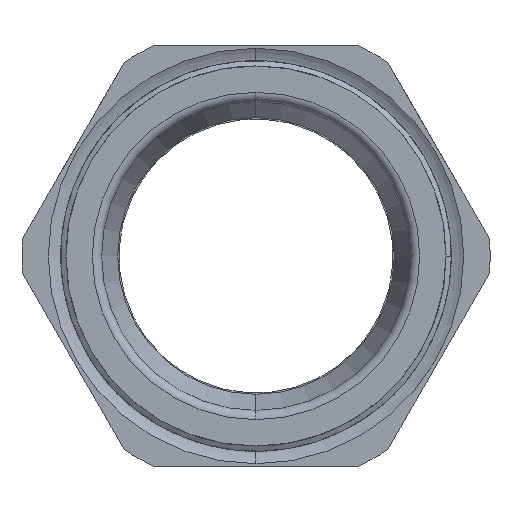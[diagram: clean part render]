
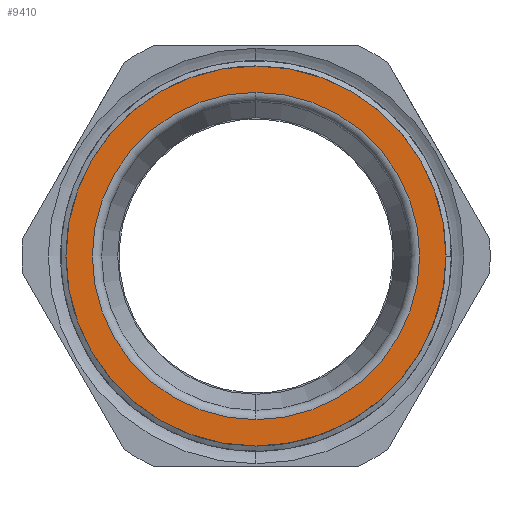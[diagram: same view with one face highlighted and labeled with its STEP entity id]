
A CAD part, front view. The second image highlights one B-rep face of the part: STEP entity #9410.
In plain terms, the highlighted planar face has unit normal (0, -1, 0).
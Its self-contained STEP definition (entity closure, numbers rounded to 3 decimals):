
#652 = PLANE ( 'NONE',  #11264 ) ;
#1283 = DIRECTION ( 'NONE',  ( 0., 0., -1. ) ) ;
#1544 = EDGE_LOOP ( 'NONE', ( #8091, #30781 ) ) ;
#2298 = DIRECTION ( 'NONE',  ( 0., -1., 0. ) ) ;
#2754 = EDGE_CURVE ( 'NONE', #24776, #15750, #24004, .T. ) ;
#3180 = CIRCLE ( 'NONE', #14867, 30.65 ) ;
#3348 = CARTESIAN_POINT ( 'NONE',  ( 30.65, 0., 0. ) ) ;
#5340 = DIRECTION ( 'NONE',  ( 0., 0., -1. ) ) ;
#6586 = EDGE_CURVE ( 'NONE', #37088, #12978, #17778, .T. ) ;
#7794 = CIRCLE ( 'NONE', #14687, 26.4 ) ;
#8091 = ORIENTED_EDGE ( 'NONE', *, *, #16204, .F. ) ;
#9410 = ADVANCED_FACE ( 'NONE', ( #14713, #32626 ), #652, .T. ) ;
#9561 = ORIENTED_EDGE ( 'NONE', *, *, #33425, .T. ) ;
#10144 = DIRECTION ( 'NONE',  ( 0., -1., 0. ) ) ;
#11264 = AXIS2_PLACEMENT_3D ( 'NONE', #25138, #10144, #27801 ) ;
#12978 = VERTEX_POINT ( 'NONE', #31489 ) ;
#13153 = CARTESIAN_POINT ( 'NONE',  ( 0., 0., 0. ) ) ;
#14687 = AXIS2_PLACEMENT_3D ( 'NONE', #38028, #2298, #5340 ) ;
#14713 = FACE_OUTER_BOUND ( 'NONE', #17781, .T. ) ;
#14867 = AXIS2_PLACEMENT_3D ( 'NONE', #15053, #36130, #18084 ) ;
#15053 = CARTESIAN_POINT ( 'NONE',  ( 0., 0., 0. ) ) ;
#15750 = VERTEX_POINT ( 'NONE', #22916 ) ;
#16180 = DIRECTION ( 'NONE',  ( 0., 0., -1. ) ) ;
#16204 = EDGE_CURVE ( 'NONE', #15750, #24776, #7794, .T. ) ;
#16313 = DIRECTION ( 'NONE',  ( 0., -1., 0. ) ) ;
#16969 = CARTESIAN_POINT ( 'NONE',  ( 0., 0., 26.4 ) ) ;
#17778 = CIRCLE ( 'NONE', #29621, 30.65 ) ;
#17781 = EDGE_LOOP ( 'NONE', ( #24121, #28826, #9561 ) ) ;
#18084 = DIRECTION ( 'NONE',  ( 0., 0., -1. ) ) ;
#18365 = CARTESIAN_POINT ( 'NONE',  ( 0., 0., 0. ) ) ;
#20476 = CIRCLE ( 'NONE', #32550, 30.65 ) ;
#22916 = CARTESIAN_POINT ( 'NONE',  ( 0., 0., -26.4 ) ) ;
#24004 = CIRCLE ( 'NONE', #35098, 26.4 ) ;
#24121 = ORIENTED_EDGE ( 'NONE', *, *, #6586, .T. ) ;
#24776 = VERTEX_POINT ( 'NONE', #16969 ) ;
#25138 = CARTESIAN_POINT ( 'NONE',  ( 26.4, 0., 0. ) ) ;
#27801 = DIRECTION ( 'NONE',  ( 0., 0., -1. ) ) ;
#28826 = ORIENTED_EDGE ( 'NONE', *, *, #29895, .T. ) ;
#29621 = AXIS2_PLACEMENT_3D ( 'NONE', #37375, #16313, #1283 ) ;
#29895 = EDGE_CURVE ( 'NONE', #12978, #33865, #3180, .T. ) ;
#29944 = DIRECTION ( 'NONE',  ( 0., 0., -1. ) ) ;
#30781 = ORIENTED_EDGE ( 'NONE', *, *, #2754, .F. ) ;
#31489 = CARTESIAN_POINT ( 'NONE',  ( 0., 0., 30.65 ) ) ;
#32550 = AXIS2_PLACEMENT_3D ( 'NONE', #13153, #34237, #16180 ) ;
#32626 = FACE_BOUND ( 'NONE', #1544, .T. ) ;
#32864 = DIRECTION ( 'NONE',  ( 0., -1., 0. ) ) ;
#33425 = EDGE_CURVE ( 'NONE', #33865, #37088, #20476, .T. ) ;
#33865 = VERTEX_POINT ( 'NONE', #37175 ) ;
#34237 = DIRECTION ( 'NONE',  ( 0., -1., 0. ) ) ;
#35098 = AXIS2_PLACEMENT_3D ( 'NONE', #18365, #32864, #29944 ) ;
#36130 = DIRECTION ( 'NONE',  ( 0., -1., 0. ) ) ;
#37088 = VERTEX_POINT ( 'NONE', #3348 ) ;
#37175 = CARTESIAN_POINT ( 'NONE',  ( 0., 0., -30.65 ) ) ;
#37375 = CARTESIAN_POINT ( 'NONE',  ( 0., 0., 0. ) ) ;
#38028 = CARTESIAN_POINT ( 'NONE',  ( 0., 0., 0. ) ) ;
